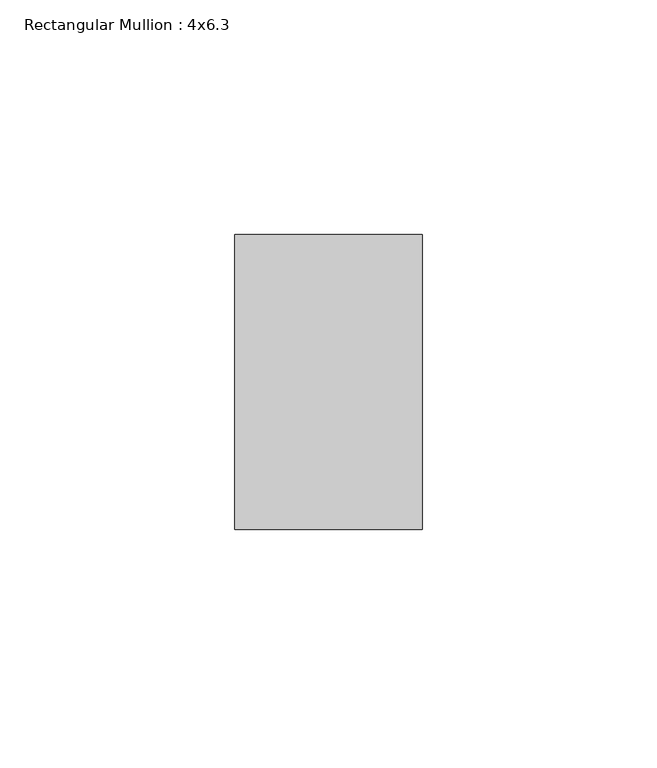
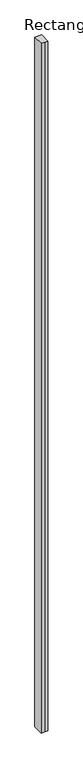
"""IFC4 building model written with IfcOpenShell, lengths in millimetres: member geometry, Rectangular Mullion : 4x6.3."""

from ifc_helpers import new_model, si_unit, frame, origin, place, context, project, spatial, polyline, outline, extrude, source, transform, mapped, element, save


def rectangular_mullion_4x6_3_896b4dcd(model_context):
    return source(origin(), model_context, "Body", "SweptSolid", [
        extrude(outline(polyline([(-20.0, 20.0), (-20.0, 83.0), (20.0, 83.0), (20.0, 20.0), (0.0, 20.0), (-20.0, 20.0)])), frame((0.0, 0.0, -4282.7719035), z_axis=(0.0, 0.0, 1.0), x_axis=(1.0, 0.0, 0.0)), (0.0, 0.0, 1.0), 4282.7719035),
    ])


if __name__ == "__main__":
    model = new_model("IFC4")
    model_context = context("Model", 3, world=origin())
    ifc_project = project(units=[si_unit("LENGTHUNIT", "METRE", prefix="MILLI")], contexts=[model_context])
    site = spatial("IfcSite", under=ifc_project)
    building = spatial("IfcBuilding", under=site)
    placement = place(None, origin())
    rectangular_mullion_4x6_3_shape = rectangular_mullion_4x6_3_896b4dcd(model_context)
    element("IfcMember", 1, ObjectType="Rectangular Mullion : 4x6.3", at=placement, inside=building, context=model_context, shape_type="MappedRepresentation", body=[
        mapped(rectangular_mullion_4x6_3_shape, transform((0.0, 0.0, 0.0), x_axis=(1.0, 0.0, 0.0), y_axis=(0.0, 1.0, 0.0), z_axis=(0.0, 0.0, 1.0))),
    ])
    save(model, "model.ifc")
